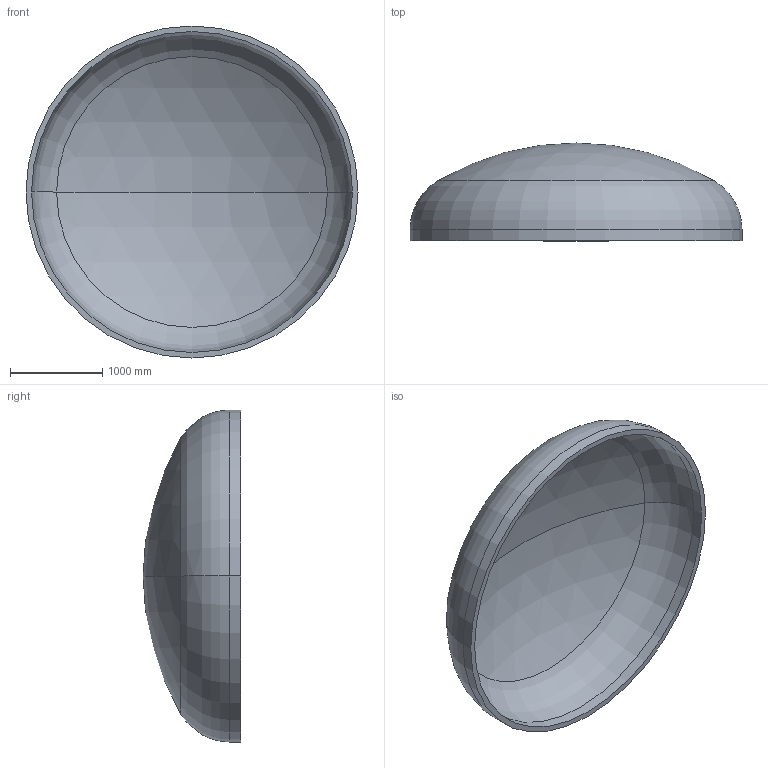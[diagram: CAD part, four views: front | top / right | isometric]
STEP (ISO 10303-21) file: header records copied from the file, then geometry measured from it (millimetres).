
FILE_DESCRIPTION (( 'STEP AP203' ), '1' );
FILE_NAME ('DIN 28013 Korbbogenform_-_Boden DIN 28013 - 3600 x 120 - I - s=60.step', '2016-07-01T20:34:53', ( '' ), ( '' ), 'SwSTEP 2.0', 'SolidWorks 2013', '' );
FILE_SCHEMA (( 'CONFIG_CONTROL_DESIGN' ));
Length unit declared in the file: millimetre
Products named in the file (1): DIN 28013 Korbbogenform_-_Boden DIN 28013 - 3600 x 120 - I - s=60
Bounding box: 3600 x 1059.65 x 3600 mm (x, y, z)
Volume: 907699429.7 mm3; surface area: 30931451.1 mm2
Topology: 1 solids, 1 shells, 13 faces, 24 edges, 14 vertices
Faces by surface type: torus 4, cylinder 4, sphere 4, plane 1
Entity records: 407 total; most frequent: DIRECTION 72, CARTESIAN_POINT 52, ORIENTED_EDGE 48, AXIS2_PLACEMENT_3D 34, EDGE_CURVE 24, CIRCLE 20, VERTEX_POINT 14, EDGE_LOOP 14
